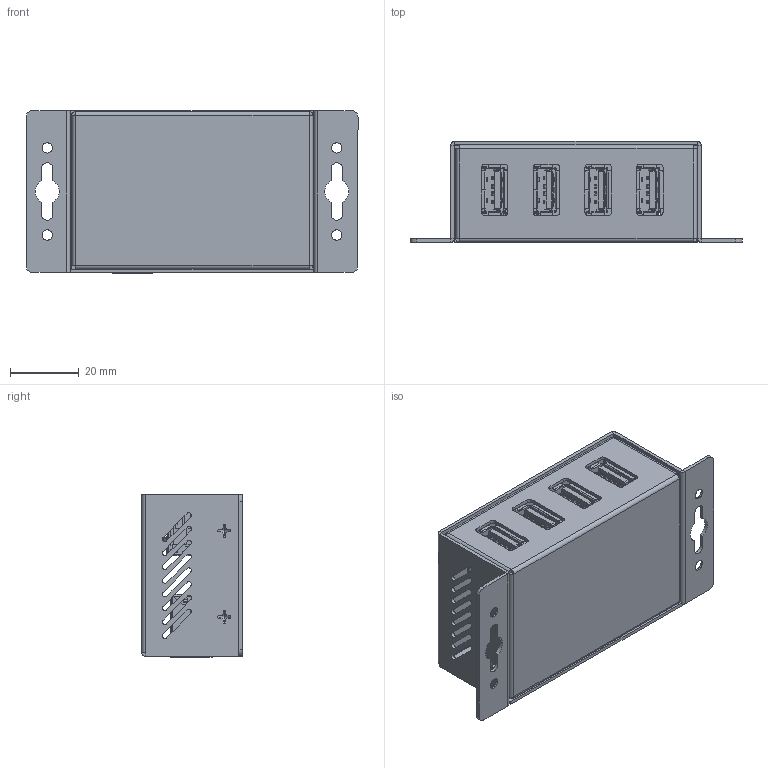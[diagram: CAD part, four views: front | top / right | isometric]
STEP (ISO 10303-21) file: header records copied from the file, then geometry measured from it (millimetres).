
FILE_DESCRIPTION(/* description */ (''),/* implementation_level */ '2;1');
FILE_NAME(/* name */ 'C:/Users/Leo/Desktop/AA CoolGear CADs/CG-U3MINI4PH/CG-U3MINI4PH Model3D LPV1.step',/* time_stamp */ '2021-06-21T09:15:07-04:00',/* author */ (''),/* organization */ (''),/* preprocessor_version */ 'ST-DEVELOPER v18.1',/* originating_system */ 'Autodesk Translation Framework v10.9.0.1377',/* authorisation */ '');
FILE_SCHEMA (('AUTOMOTIVE_DESIGN { 1 0 10303 214 3 1 1 }'));
Products named in the file (1): FusionComponent
Bounding box: 96.35 x 29.25 x 47.3 mm (x, y, z)
Volume: 24554.6 mm3; surface area: 52632.2 mm2
Topology: 2 solids, 50 shells, 6429 faces, 18617 edges, 11930 vertices
Faces by surface type: plane 4870, cylinder 1380, bspline 121, cone 52, sphere 4, torus 2
Full cylindrical faces by diameter (mm): 1.623 x1, 2.088 x1, 2.459 x4, 3 x8, 3.422 x1, 4.872 x2, 5.25 x5, 5.8 x1
Entity records: 218180 total; most frequent: CARTESIAN_POINT 47001, ORIENTED_EDGE 37218, DIRECTION 33654, EDGE_CURVE 18609, LINE 15342, VECTOR 15342, VERTEX_POINT 11932, AXIS2_PLACEMENT_3D 9156
